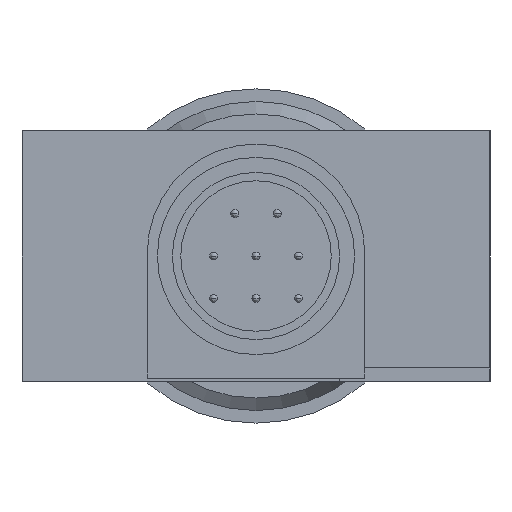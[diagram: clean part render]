
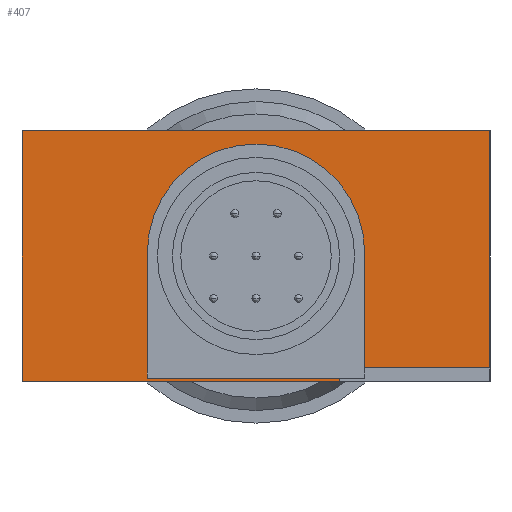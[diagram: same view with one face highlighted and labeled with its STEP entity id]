
A CAD part, left-side view. The second image highlights one B-rep face of the part: STEP entity #407.
In plain terms, the highlighted planar face has unit normal (-1, 0, 0).
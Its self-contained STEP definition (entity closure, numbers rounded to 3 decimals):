
#407=ADVANCED_FACE('',(#816,#817),#818,.T.);
#816=FACE_OUTER_BOUND('',#1237,.T.);
#817=FACE_BOUND('',#1238,.T.);
#818=PLANE('',#1239);
#1237=EDGE_LOOP('',(#2139,#2140,#2141,#2142,#2143,#2144));
#1238=EDGE_LOOP('',(#2145,#2146));
#1239=AXIS2_PLACEMENT_3D('',#2147,#2148,#2149);
#2139=ORIENTED_EDGE('',*,*,#2585,.T.);
#2140=ORIENTED_EDGE('',*,*,#2588,.T.);
#2141=ORIENTED_EDGE('',*,*,#2596,.T.);
#2142=ORIENTED_EDGE('',*,*,#2597,.F.);
#2143=ORIENTED_EDGE('',*,*,#2598,.F.);
#2144=ORIENTED_EDGE('',*,*,#2599,.F.);
#2145=ORIENTED_EDGE('',*,*,#2548,.T.);
#2146=ORIENTED_EDGE('',*,*,#2600,.T.);
#2147=CARTESIAN_POINT('',(-165.8,14.0,-7.5));
#2148=DIRECTION('',(-1.0,0.0,0.0));
#2149=DIRECTION('',(0.0,-1.0,0.0));
#2548=EDGE_CURVE('',#3042,#3046,#3048,.T.);
#2585=EDGE_CURVE('',#3102,#3104,#3106,.T.);
#2588=EDGE_CURVE('',#3104,#3108,#3110,.T.);
#2596=EDGE_CURVE('',#3108,#3121,#3122,.T.);
#2597=EDGE_CURVE('',#3123,#3121,#3124,.T.);
#2598=EDGE_CURVE('',#3125,#3123,#3126,.T.);
#2599=EDGE_CURVE('',#3102,#3125,#3127,.T.);
#2600=EDGE_CURVE('',#3046,#3042,#3128,.T.);
#3042=VERTEX_POINT('',#3636);
#3046=VERTEX_POINT('',#3641);
#3048=CIRCLE('',#3644,4.0);
#3102=VERTEX_POINT('',#3715);
#3104=VERTEX_POINT('',#3718);
#3106=LINE('',#3721,#3722);
#3108=VERTEX_POINT('',#3724);
#3110=LINE('',#3727,#3728);
#3121=VERTEX_POINT('',#3743);
#3122=LINE('',#3744,#3745);
#3123=VERTEX_POINT('',#3746);
#3124=LINE('',#3747,#3748);
#3125=VERTEX_POINT('',#3749);
#3126=LINE('',#3750,#3751);
#3127=LINE('',#3752,#3753);
#3128=CIRCLE('',#3754,4.0);
#3636=CARTESIAN_POINT('',(-165.8,-4.0,0.));
#3641=CARTESIAN_POINT('',(-165.8,4.0,0.));
#3644=AXIS2_PLACEMENT_3D('',#4225,#4226,#4227);
#3715=CARTESIAN_POINT('',(-165.8,-5.0,-7.5));
#3718=CARTESIAN_POINT('',(-165.8,-5.0,-6.7));
#3721=CARTESIAN_POINT('',(-165.8,-5.0,-7.5));
#3722=VECTOR('',#4271,0.8);
#3724=CARTESIAN_POINT('',(-165.8,-14.0,-6.7));
#3727=CARTESIAN_POINT('',(-165.8,-5.0,-6.7));
#3728=VECTOR('',#4273,9.0);
#3743=CARTESIAN_POINT('',(-165.8,-14.0,7.5));
#3744=CARTESIAN_POINT('',(-165.8,-14.0,-6.7));
#3745=VECTOR('',#4281,14.2);
#3746=CARTESIAN_POINT('',(-165.8,14.0,7.5));
#3747=CARTESIAN_POINT('',(-165.8,14.0,7.5));
#3748=VECTOR('',#4282,28.0);
#3749=CARTESIAN_POINT('',(-165.8,14.0,-7.5));
#3750=CARTESIAN_POINT('',(-165.8,14.0,-7.5));
#3751=VECTOR('',#4283,15.0);
#3752=CARTESIAN_POINT('',(-165.8,-5.0,-7.5));
#3753=VECTOR('',#4284,19.0);
#3754=AXIS2_PLACEMENT_3D('',#4285,#4286,#4287);
#4225=CARTESIAN_POINT('',(-165.8,0.0,0.));
#4226=DIRECTION('',(1.0,0.0,0.0));
#4227=DIRECTION('',(0.0,-1.0,0.0));
#4271=DIRECTION('',(0.0,0.0,1.0));
#4273=DIRECTION('',(0.0,-1.0,0.0));
#4281=DIRECTION('',(0.0,0.0,1.0));
#4282=DIRECTION('',(0.0,-1.0,0.0));
#4283=DIRECTION('',(0.0,0.0,1.0));
#4284=DIRECTION('',(0.0,1.0,0.0));
#4285=CARTESIAN_POINT('',(-165.8,0.0,0.));
#4286=DIRECTION('',(1.0,0.0,0.0));
#4287=DIRECTION('',(0.0,-1.0,0.0));
